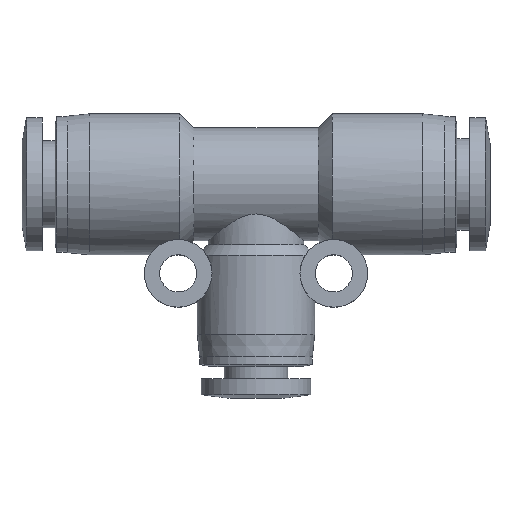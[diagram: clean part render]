
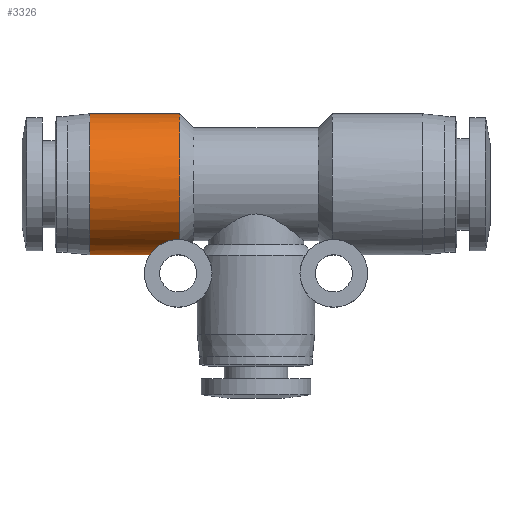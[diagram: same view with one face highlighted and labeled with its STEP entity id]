
A CAD part, top view. The second image highlights one B-rep face of the part: STEP entity #3326.
In plain terms, the highlighted cylindrical face has radius 6.25 mm (diameter 12.5 mm), a partial arc.
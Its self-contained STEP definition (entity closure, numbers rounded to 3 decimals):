
#27 = CARTESIAN_POINT ( 'NONE',  ( -7.984, 13.849, 3.613 ) ) ;
#38 = CARTESIAN_POINT ( 'NONE',  ( -9.405, 12.7, 0. ) ) ;
#65 = CARTESIAN_POINT ( 'NONE',  ( -9.201, 12.978, 1.857 ) ) ;
#83 = DIRECTION ( 'NONE',  ( 0., 1., 0. ) ) ;
#86 = CARTESIAN_POINT ( 'NONE',  ( -8.923, 13.265, 2.597 ) ) ;
#186 = CARTESIAN_POINT ( 'NONE',  ( -9.338, 12.799, 1.111 ) ) ;
#196 = CARTESIAN_POINT ( 'NONE',  ( -14.75, 12.7, 0. ) ) ;
#280 = CARTESIAN_POINT ( 'NONE',  ( -8.399, 13.65, 3.314 ) ) ;
#377 = ORIENTED_EDGE ( 'NONE', *, *, #3404, .F. ) ;
#407 = ORIENTED_EDGE ( 'NONE', *, *, #1097, .T. ) ;
#421 = DIRECTION ( 'NONE',  ( 0., 1., 0. ) ) ;
#423 = DIRECTION ( 'NONE',  ( 1., 0., 0. ) ) ;
#431 = CIRCLE ( 'NONE', #3531, 6.25 ) ;
#432 = AXIS2_PLACEMENT_3D ( 'NONE', #609, #2052, #1727 ) ;
#574 = CARTESIAN_POINT ( 'NONE',  ( -8.908, 13.279, 2.628 ) ) ;
#589 = FACE_OUTER_BOUND ( 'NONE', #1811, .T. ) ;
#596 = VECTOR ( 'NONE', #1490, 1000. ) ;
#609 = CARTESIAN_POINT ( 'NONE',  ( -10.75, 18.95, 0. ) ) ;
#610 = EDGE_CURVE ( 'NONE', #1484, #3515, #2952, .T. ) ;
#739 = CARTESIAN_POINT ( 'NONE',  ( -9.369, 12.755, 0.832 ) ) ;
#828 = CARTESIAN_POINT ( 'NONE',  ( -6.981, 14.051, 3.881 ) ) ;
#850 = CARTESIAN_POINT ( 'NONE',  ( -7.504, 13.989, 3.801 ) ) ;
#906 = CARTESIAN_POINT ( 'NONE',  ( -6.866, 14.052, 3.882 ) ) ;
#993 = LINE ( 'NONE', #2659, #3479 ) ;
#1007 = CARTESIAN_POINT ( 'NONE',  ( -9.305, 12.844, 1.334 ) ) ;
#1021 = AXIS2_PLACEMENT_3D ( 'NONE', #2162, #3426, #83 ) ;
#1052 = EDGE_CURVE ( 'NONE', #2491, #2561, #431, .T. ) ;
#1097 = EDGE_CURVE ( 'NONE', #3515, #2561, #3296, .T. ) ;
#1119 = CARTESIAN_POINT ( 'NONE',  ( -8.942, 13.248, 2.559 ) ) ;
#1156 = CARTESIAN_POINT ( 'NONE',  ( -7.668, 13.95, 3.751 ) ) ;
#1173 = CARTESIAN_POINT ( 'NONE',  ( -8.91, 13.277, 2.624 ) ) ;
#1194 = CARTESIAN_POINT ( 'NONE',  ( -8.471, 13.607, 3.244 ) ) ;
#1294 = CARTESIAN_POINT ( 'NONE',  ( -9.327, 12.814, 1.193 ) ) ;
#1464 = CARTESIAN_POINT ( 'NONE',  ( -7.388, 14.01, 3.829 ) ) ;
#1482 = VERTEX_POINT ( 'NONE', #2701 ) ;
#1484 = VERTEX_POINT ( 'NONE', #196 ) ;
#1490 = DIRECTION ( 'NONE',  ( 1., 0., 0. ) ) ;
#1575 = CARTESIAN_POINT ( 'NONE',  ( -9.405, 12.7, 0.247 ) ) ;
#1675 = CARTESIAN_POINT ( 'NONE',  ( -8.979, 13.213, 2.481 ) ) ;
#1692 = CARTESIAN_POINT ( 'NONE',  ( -7.881, 13.887, 3.665 ) ) ;
#1727 = DIRECTION ( 'NONE',  ( 0., 1., 0. ) ) ;
#1728 = CARTESIAN_POINT ( 'NONE',  ( -7.212, 14.034, 3.86 ) ) ;
#1763 = CARTESIAN_POINT ( 'NONE',  ( -6.75, 14.046, 3.875 ) ) ;
#1811 = EDGE_LOOP ( 'NONE', ( #1959, #3124, #407, #2164, #377 ) ) ;
#1813 = DIRECTION ( 'NONE',  ( 1., 0., 0. ) ) ;
#1850 = CARTESIAN_POINT ( 'NONE',  ( -9.299, 12.851, 1.367 ) ) ;
#1943 = CARTESIAN_POINT ( 'NONE',  ( -6.75, 14.046, 3.875 ) ) ;
#1951 = EDGE_CURVE ( 'NONE', #1482, #1484, #2945, .T. ) ;
#1959 = ORIENTED_EDGE ( 'NONE', *, *, #1951, .T. ) ;
#1963 = CARTESIAN_POINT ( 'NONE',  ( -8.089, 13.804, 3.547 ) ) ;
#1980 = CARTESIAN_POINT ( 'NONE',  ( -7.153, 14.04, 3.867 ) ) ;
#2000 = CARTESIAN_POINT ( 'NONE',  ( -9.067, 13.126, 2.27 ) ) ;
#2020 = CARTESIAN_POINT ( 'NONE',  ( -9.009, 13.184, 2.412 ) ) ;
#2052 = DIRECTION ( 'NONE',  ( 1., 0., 0. ) ) ;
#2087 = CARTESIAN_POINT ( 'NONE',  ( -6.75, 18.95, 0. ) ) ;
#2121 = CARTESIAN_POINT ( 'NONE',  ( -9.396, 12.715, 0.486 ) ) ;
#2162 = CARTESIAN_POINT ( 'NONE',  ( -14.75, 18.95, 0. ) ) ;
#2164 = ORIENTED_EDGE ( 'NONE', *, *, #1052, .F. ) ;
#2228 = CARTESIAN_POINT ( 'NONE',  ( -8.798, 13.378, 2.839 ) ) ;
#2250 = CARTESIAN_POINT ( 'NONE',  ( -8.677, 13.473, 3.017 ) ) ;
#2267 = CARTESIAN_POINT ( 'NONE',  ( -9.102, 13.088, 2.17 ) ) ;
#2283 = CARTESIAN_POINT ( 'NONE',  ( -8.12, 13.791, 3.528 ) ) ;
#2395 = CARTESIAN_POINT ( 'NONE',  ( -10.75, 12.7, 0. ) ) ;
#2491 = VERTEX_POINT ( 'NONE', #2843 ) ;
#2549 = CARTESIAN_POINT ( 'NONE',  ( -9.254, 12.91, 1.628 ) ) ;
#2561 = VERTEX_POINT ( 'NONE', #1763 ) ;
#2565 = CARTESIAN_POINT ( 'NONE',  ( -8.915, 13.272, 2.613 ) ) ;
#2581 = CARTESIAN_POINT ( 'NONE',  ( -9.298, 12.852, 1.372 ) ) ;
#2659 = CARTESIAN_POINT ( 'NONE',  ( -10.75, 25.2, 0. ) ) ;
#2692 = CARTESIAN_POINT ( 'NONE',  ( -9.358, 12.771, 0.945 ) ) ;
#2701 = CARTESIAN_POINT ( 'NONE',  ( -14.75, 25.2, 0. ) ) ;
#2803 = CARTESIAN_POINT ( 'NONE',  ( -7.329, 14.019, 3.841 ) ) ;
#2839 = CARTESIAN_POINT ( 'NONE',  ( -8.226, 13.742, 3.455 ) ) ;
#2843 = CARTESIAN_POINT ( 'NONE',  ( -6.75, 25.2, 0. ) ) ;
#2945 = CIRCLE ( 'NONE', #1021, 6.25 ) ;
#2952 = LINE ( 'NONE', #2395, #596 ) ;
#2965 = CARTESIAN_POINT ( 'NONE',  ( -9.405, 12.7, 0. ) ) ;
#3080 = CARTESIAN_POINT ( 'NONE',  ( -7.558, 13.977, 3.786 ) ) ;
#3096 = CARTESIAN_POINT ( 'NONE',  ( -8.156, 13.775, 3.504 ) ) ;
#3113 = CYLINDRICAL_SURFACE ( 'NONE', #432, 6.25 ) ;
#3116 = CARTESIAN_POINT ( 'NONE',  ( -8.104, 13.798, 3.538 ) ) ;
#3124 = ORIENTED_EDGE ( 'NONE', *, *, #610, .T. ) ;
#3240 = CARTESIAN_POINT ( 'NONE',  ( -9.301, 12.848, 1.353 ) ) ;
#3296 = B_SPLINE_CURVE_WITH_KNOTS ( 'NONE', 3,
 ( #2965, #1575, #2121, #739, #2692, #186, #1294, #3517, #1007, #3240, #1850, #2581, #2549, #65, #2267, #2000, #2020, #1675, #1119, #86, #2565, #1173, #574, #2228, #2250, #1194, #280, #3335, #2839, #3096, #2283, #3116, #3410, #1963, #27, #1692, #3355, #1156, #3080, #850, #1464, #2803, #1728, #1980, #828, #906, #1943 ),
 .UNSPECIFIED., .F., .F.,
 ( 4, 2, 2, 1, 1, 1, 2, 2, 2, 2, 1, 1, 1, 2, 2, 2, 2, 1, 1, 1, 2, 2, 2, 2, 2, 2, 2, 4 ),
 ( 0.5, 0.563, 0.594, 0.609, 0.617, 0.621, 0.623, 0.625, 0.688, 0.719, 0.734, 0.742, 0.746, 0.748, 0.75, 0.813, 0.844, 0.859, 0.867, 0.871, 0.873, 0.875, 0.906, 0.922, 0.938, 0.953, 0.969, 1. ),
 .UNSPECIFIED. ) ;
#3326 = ADVANCED_FACE ( 'NONE', ( #589 ), #3113, .T. ) ;
#3335 = CARTESIAN_POINT ( 'NONE',  ( -8.285, 13.712, 3.409 ) ) ;
#3355 = CARTESIAN_POINT ( 'NONE',  ( -7.722, 13.936, 3.731 ) ) ;
#3404 = EDGE_CURVE ( 'NONE', #1482, #2491, #993, .T. ) ;
#3410 = CARTESIAN_POINT ( 'NONE',  ( -8.094, 13.802, 3.544 ) ) ;
#3426 = DIRECTION ( 'NONE',  ( 1., 0., 0. ) ) ;
#3479 = VECTOR ( 'NONE', #423, 1000. ) ;
#3515 = VERTEX_POINT ( 'NONE', #38 ) ;
#3517 = CARTESIAN_POINT ( 'NONE',  ( -9.312, 12.834, 1.287 ) ) ;
#3531 = AXIS2_PLACEMENT_3D ( 'NONE', #2087, #1813, #421 ) ;
